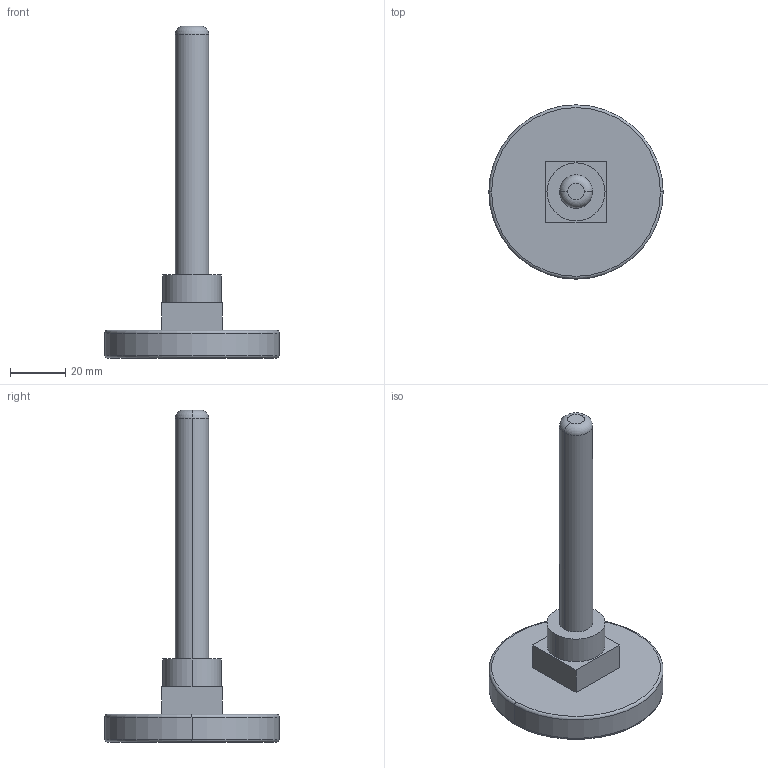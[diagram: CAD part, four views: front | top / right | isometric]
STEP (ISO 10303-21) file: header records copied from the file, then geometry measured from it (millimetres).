
FILE_DESCRIPTION (( 'STEP AP214' ), '1' );
FILE_NAME ('Termometr_bimetaliczny_x_0_3D_AFRISO.STEP', '2022-12-16T13:38:27', ( '' ), ( '' ), 'SwSTEP 2.0', 'SolidWorks 2022', '' );
FILE_SCHEMA (( 'AUTOMOTIVE_DESIGN' ));
Length unit declared in the file: millimetre
Products named in the file (1): Termometr_bimetaliczny_x_0_3D_AFRISO
Bounding box: 63 x 63 x 120 mm (x, y, z)
Volume: 49505.8 mm3; surface area: 12923 mm2
Topology: 1 solids, 1 shells, 21 faces, 42 edges, 26 vertices
Faces by surface type: plane 9, torus 6, cylinder 6
Entity records: 586 total; most frequent: DIRECTION 110, CARTESIAN_POINT 90, ORIENTED_EDGE 84, AXIS2_PLACEMENT_3D 46, EDGE_CURVE 42, VERTEX_POINT 26, EDGE_LOOP 24, CIRCLE 24
